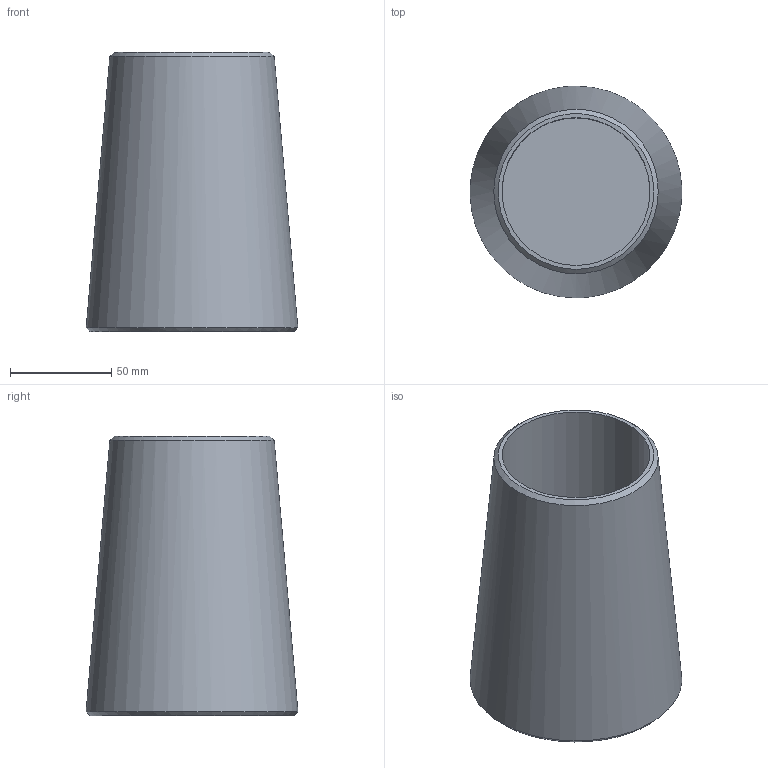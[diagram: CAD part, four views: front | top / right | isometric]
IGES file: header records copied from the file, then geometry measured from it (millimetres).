
Global section: file name: 520-070-KMU; native system: Autodesk Inventor 2016; preprocessor: unknown; author: BAYR; date: 20200618.123635; units: millimetre
Bounding box: 104.54 x 104.65 x 138 mm (x, y, z)
Volume: 509142.3 mm3; surface area: 77176.2 mm2
Topology: 1 solids, 1 shells, 7 faces, 14 edges, 10 vertices
Faces by surface type: bspline 7
